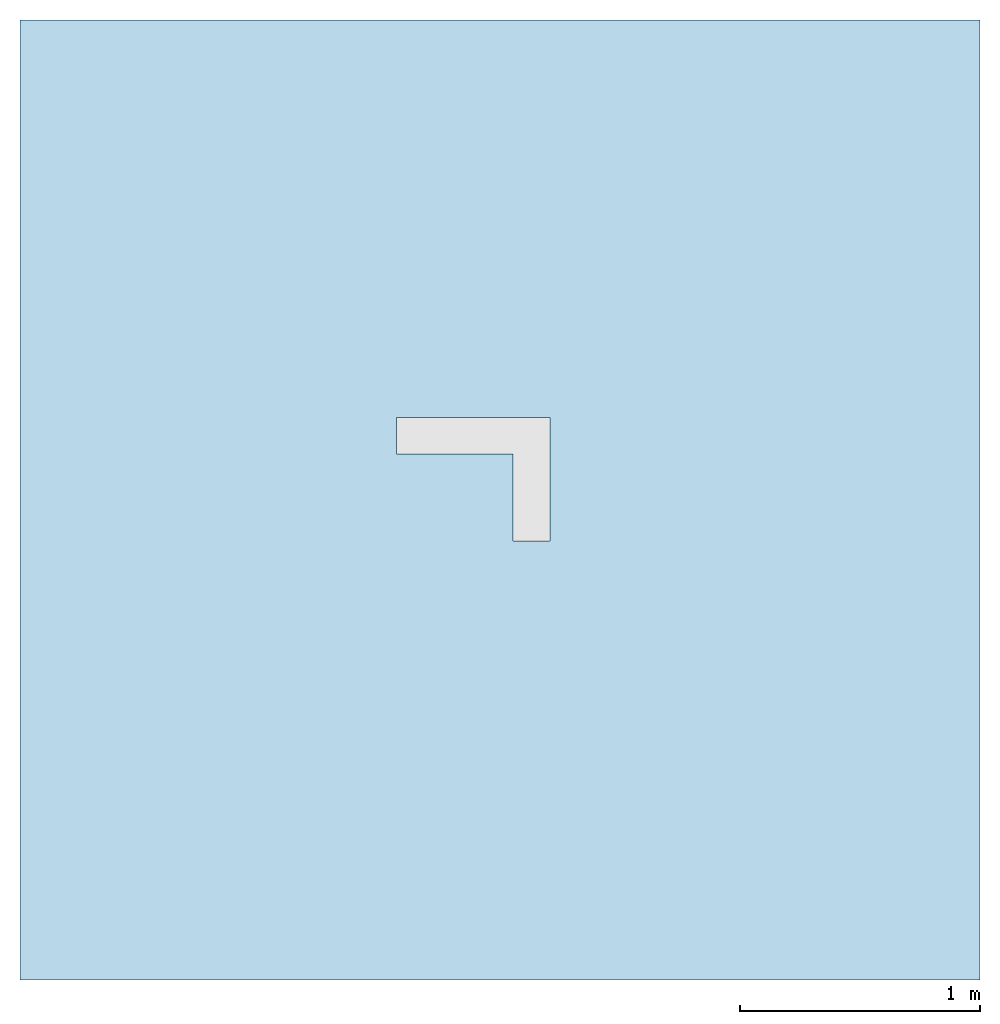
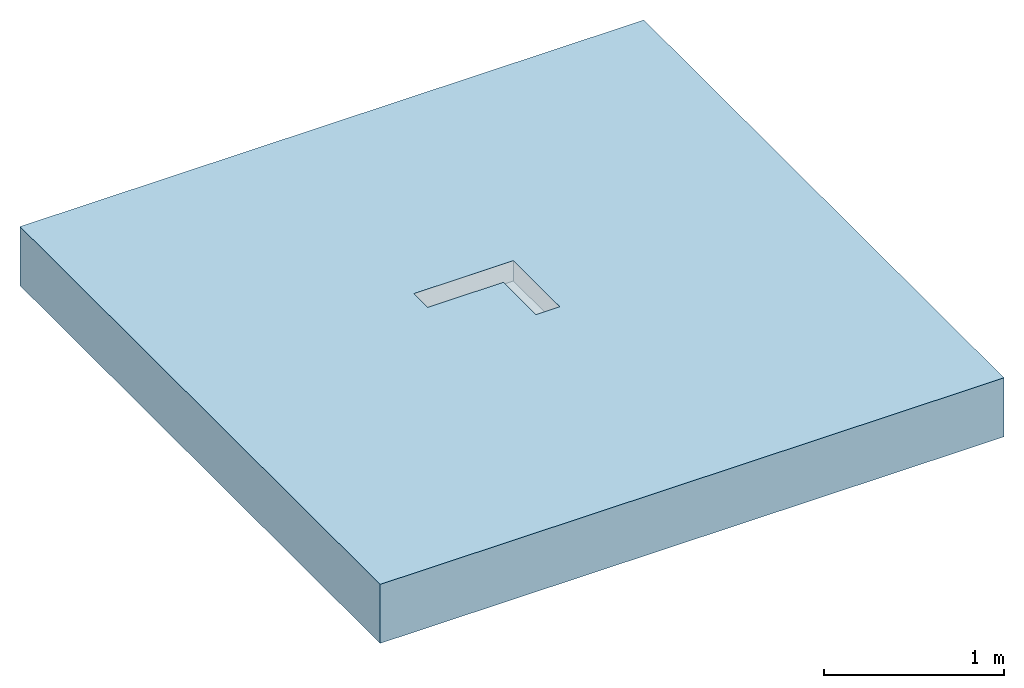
# One storey, incomplete: 1 slab, 1 opening.
"""IFC2X3 building model written with IfcOpenShell, lengths in millimetres."""

from ifc_helpers import new_model, entity, si_unit, converted_unit, direction, frame, frame_2d, origin, place, context, subcontext, project, spatial, polyline, rectangle, outline, extrude, material, layer, layer_set, layer_usage, element, save


model = new_model("IFC2X3")

# Units and contexts
model_context = context("Model", 3, precision=1e-06, world=origin(), true_north=direction((2.0, 6.12303176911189e-17, 1.0)))
context_of_model = context(None, 3, precision=1e-06, world=origin(), true_north=direction((2.0, 6.12303176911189e-17, 1.0)))
body_context = subcontext(model_context, "Body", "Model", "MODEL_VIEW")
ifc_project = project(units=[si_unit("LENGTHUNIT", "METRE", prefix="MILLI"), si_unit("AREAUNIT", "SQUARE_METRE", prefix="MILLI"), si_unit("VOLUMEUNIT", "CUBIC_METRE", prefix="MILLI"), converted_unit("PLANEANGLEUNIT", "DEGREE", entity("IfcRatioMeasure", 0.0174532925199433), si_unit("PLANEANGLEUNIT", "RADIAN"), dimensions=[0, 0, 0, 0, 0, 0, 0]), si_unit("TIMEUNIT", "SECOND")], contexts=[model_context, context_of_model])

# Site, building, storey
site_placement = place(None, origin())
site = spatial("IfcSite", under=ifc_project, at=site_placement, Name="Default", CompositionType="ELEMENT")
building_placement = place(site_placement, origin())
building = spatial("IfcBuilding", under=site, at=building_placement, CompositionType="ELEMENT")
storey_placement = place(building_placement, origin())
storey = spatial("IfcBuildingStorey", under=building, at=storey_placement, Name="Level 1", CompositionType="ELEMENT", Elevation=0.0)

# Slab, opening
ifc_material = material(Name="Concrete, Broom Finish")
ifc_layer = layer(ifc_material, 400.0)
ifc_layer_set = layer_set([ifc_layer], Name="Floor:Generic Floor - 400mm")
ifc_layer_usage = layer_usage(ifc_layer_set, "AXIS3", "POSITIVE", 0.0)
slab_placement = place(storey_placement, origin())
slab = element("IfcSlab", 1, at=slab_placement, inside=storey, material=ifc_layer_usage, Name="Floor:Generic Floor - 400mm", ObjectType="Floor:Generic Floor - 400mm", PredefinedType="FLOOR", context=body_context, shape_type="SweptSolid", body=[
    extrude(rectangle(XDim=4000.0, YDim=4000.0, at=frame_2d((0.0, 0.0), x_axis=(0.0, -1.0))), frame((-42.176138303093, 0.318612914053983, 0.0), z_axis=(0.0, 0.0, -1.0), x_axis=(-1.0, 0.0, 0.0)), (0.0, 0.0, 1.0), 400.0),
])
opening_placement = place(slab_placement, origin())
element("IfcOpeningElement", 2, at=opening_placement, cuts=slab, ObjectType="Recess", context=body_context, shape_type="SweptSolid", body=[
    extrude(outline(polyline([(-291.666666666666, -264.0), (222.333333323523, -264.0), (222.333333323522, 375.0), (69.3333333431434, 375.0), (69.3333333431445, -111.0), (-291.666666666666, -111.0), (-291.666666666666, -264.0)])), frame((-98.4863038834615, 122.034812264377, -137.800000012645), z_axis=(0.0, 0.0, 1.0), x_axis=(0.0, 1.0, 0.0)), (0.0, 0.0, 1.0), 137.800000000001),
])

save(model, "model.ifc")
